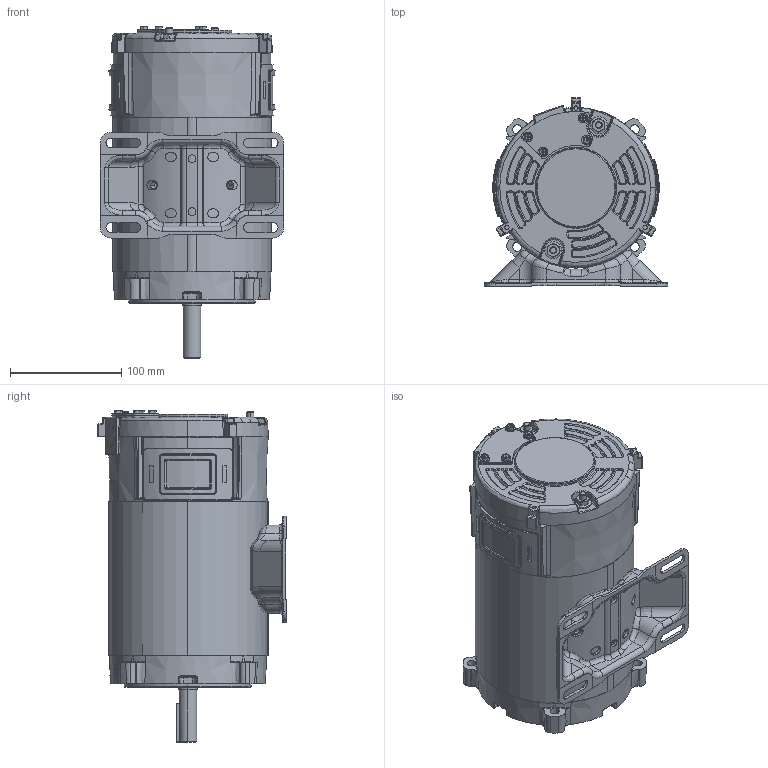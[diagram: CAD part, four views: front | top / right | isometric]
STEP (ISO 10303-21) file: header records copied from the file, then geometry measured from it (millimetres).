
FILE_DESCRIPTION (( 'STEP AP203' ), '1' );
FILE_NAME ('031880-108047_Rev02.STEP', '2017-06-15T14:05:41', ( 'admin' ), ( '' ), 'SwSTEP 2.0', 'SolidWorks 2015', '' );
FILE_SCHEMA (( 'CONFIG_CONTROL_DESIGN' ));
Products named in the file (1): 031880-108047_Rev02
Bounding box: 165.1 x 169.41 x 298.9 mm (x, y, z)
Volume: 1019176.2 mm3; surface area: 430814.6 mm2
Topology: 32 solids, 32 shells, 3603 faces, 8716 edges, 5099 vertices
Faces by surface type: cylinder 912, bspline 893, plane 820, torus 485, cone 419, sphere 74
Entity records: 143230 total; most frequent: CARTESIAN_POINT 65865, ORIENTED_EDGE 17094, DIRECTION 15176, EDGE_CURVE 8547, AXIS2_PLACEMENT_3D 6264, VERTEX_POINT 5093, EDGE_LOOP 3800, FACE_OUTER_BOUND 3603
